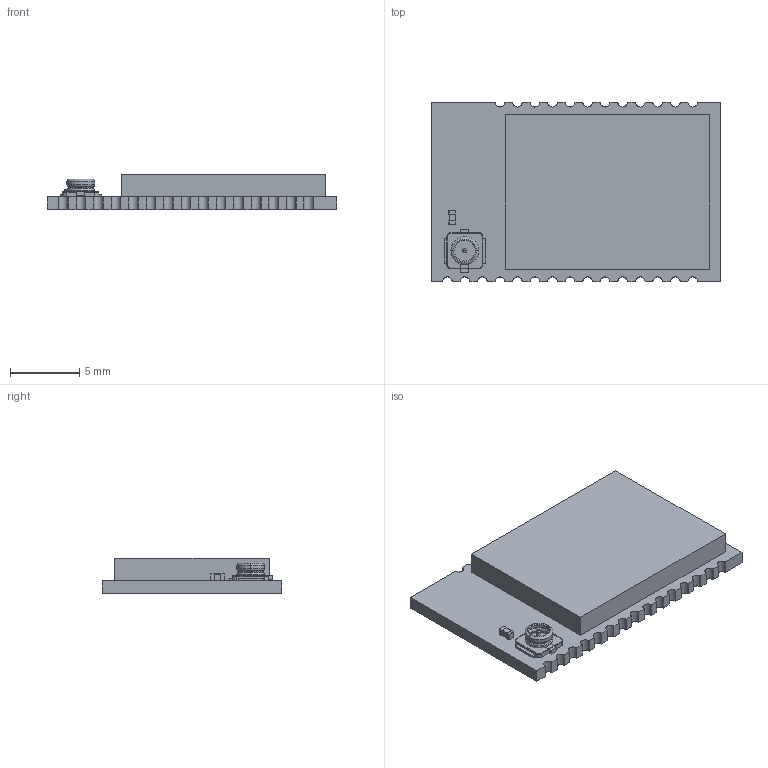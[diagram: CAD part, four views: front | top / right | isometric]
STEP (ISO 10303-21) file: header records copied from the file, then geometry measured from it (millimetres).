
FILE_DESCRIPTION(('Open CASCADE Model'),'2;1');
FILE_NAME('Open CASCADE Shape Model','2017-07-20T13:43:59',('Author'),( 'Open CASCADE'),'Open CASCADE STEP processor 6.8','Open CASCADE 6.8' ,'Unknown');
FILE_SCHEMA(('AUTOMOTIVE_DESIGN { 1 0 10303 214 1 1 1 1 }'));
Length unit declared in the file: millimetre
Products named in the file (9): PCB; Board; X1; UFL_R_SMD; C1; cap_0402; Free-Models; 1920631336; Extruded
Assembly tree (8 placements, depth 4):
  PCB
    Board
    X1
      UFL_R_SMD
    C1
      cap_0402
    Free-Models
      1920631336
        Extruded
Bounding box: 21 x 13 x 2.54 mm (x, y, z)
Volume: 521.1 mm3; surface area: 1072.8 mm2
Topology: 10 solids, 10 shells, 218 faces, 533 edges, 330 vertices
Faces by surface type: plane 96, cylinder 84, torus 28, sphere 8, revolution 2
Entity records: 7571 total; most frequent: DIRECTION 1199, CARTESIAN_POINT 1096, ORIENTED_EDGE 1050, EDGE_CURVE 525, AXIS2_PLACEMENT_3D 447, VERTEX_POINT 330, LINE 303, VECTOR 303
